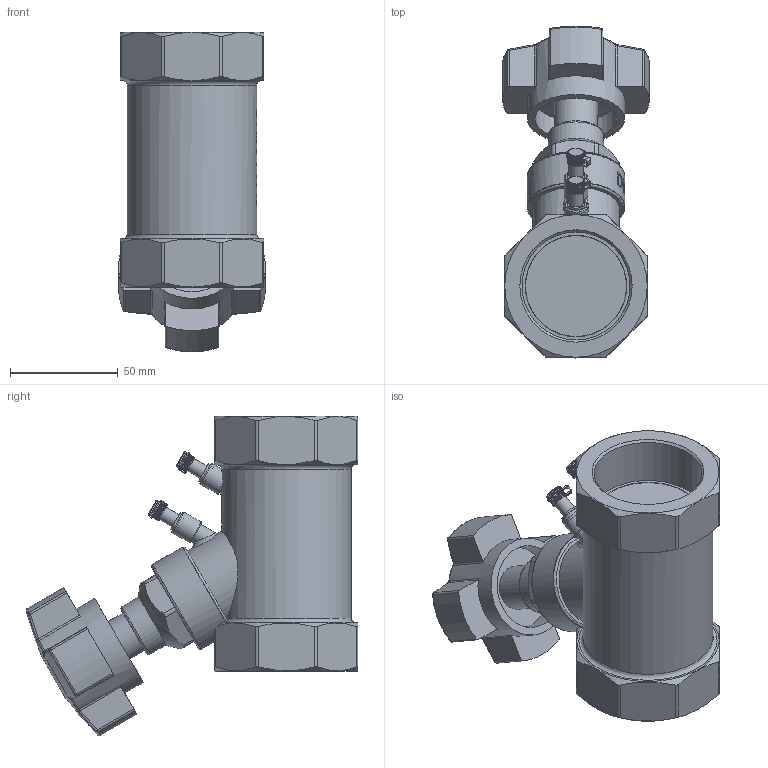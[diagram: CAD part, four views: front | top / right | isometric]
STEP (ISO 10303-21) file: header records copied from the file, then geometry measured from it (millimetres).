
FILE_DESCRIPTION(('STEP AP242'), '1');
FILE_NAME('VB0000P-T Êëàïàí áàëàíñèðîâî÷íûé Äó50 Ðó16', '2026-04-26T17:29:25', ('R2D2'), (''), 'C3D Converter', 'C3D Toolkit', '');
FILE_SCHEMA(('AP242_MANAGED_MODEL_BASED_3D_ENGINEERING_MIM_LF { 1 0 10303 442 1 1 4 }'));
Length unit declared in the file: millimetre
Products named in the file (1): VB0000P-T
Bounding box: 67.83 x 153.67 x 147.96 mm (x, y, z)
Volume: 346313.5 mm3; surface area: 69788.5 mm2
Topology: 1 solids, 4 shells, 1214 faces, 3328 edges, 2165 vertices
Faces by surface type: plane 889, extrusion 123, cylinder 112, bspline 43, torus 21, cone 18, sphere 8
Full cylindrical faces by diameter (mm): 6.5 x2, 11 x2, 15 x1, 17.157 x1, 20 x1, 25.548 x1, 38 x1, 41.342 x1, 45 x3, 45.342 x1, 50 x2, 60 x1
Entity records: 67202 total; most frequent: CARTESIAN_POINT 28384, ORIENTED_EDGE 6570, DIRECTION 4990, EDGE_CURVE 3285, VECTOR 2186, VERTEX_POINT 2165, LINE 2063, AXIS2_PLACEMENT_3D 1402
